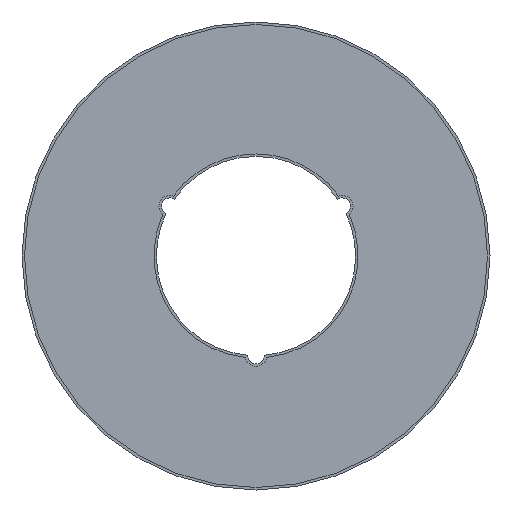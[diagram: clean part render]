
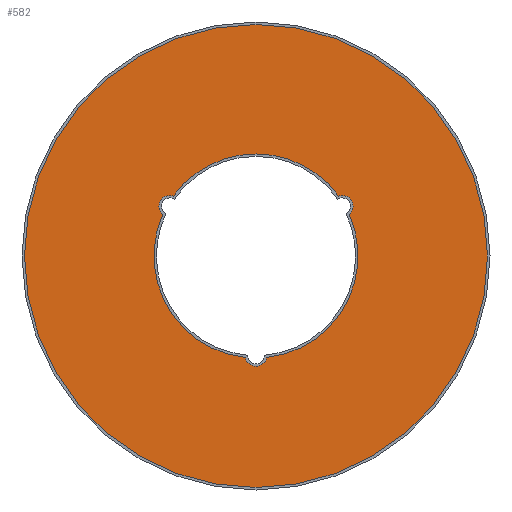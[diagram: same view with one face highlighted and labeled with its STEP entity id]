
A CAD part, front view. The second image highlights one B-rep face of the part: STEP entity #582.
In plain terms, the highlighted planar face has unit normal (0, -1, 0).
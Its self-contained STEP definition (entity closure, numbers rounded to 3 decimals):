
#7 = VERTEX_POINT ( 'NONE', #803 ) ;
#8 = CARTESIAN_POINT ( 'NONE',  ( -5.196, -0.035, 3. ) ) ;
#23 = EDGE_CURVE ( 'NONE', #491, #169, #741, .T. ) ;
#27 = AXIS2_PLACEMENT_3D ( 'NONE', #8, #116, #374 ) ;
#50 = EDGE_CURVE ( 'NONE', #901, #146, #777, .T. ) ;
#81 = AXIS2_PLACEMENT_3D ( 'NONE', #241, #620, #954 ) ;
#97 = CARTESIAN_POINT ( 'NONE',  ( 0., -0.035, 0. ) ) ;
#99 = CARTESIAN_POINT ( 'NONE',  ( 0.639, -0.035, -6.117 ) ) ;
#101 = ORIENTED_EDGE ( 'NONE', *, *, #688, .F. ) ;
#116 = DIRECTION ( 'NONE',  ( 0., -1., 0. ) ) ;
#125 = DIRECTION ( 'NONE',  ( 0., -1., 0. ) ) ;
#129 = EDGE_CURVE ( 'NONE', #396, #813, #341, .T. ) ;
#140 = CIRCLE ( 'NONE', #461, 0.65 ) ;
#146 = VERTEX_POINT ( 'NONE', #1005 ) ;
#163 = EDGE_CURVE ( 'NONE', #7, #966, #629, .T. ) ;
#166 = CARTESIAN_POINT ( 'NONE',  ( -0.639, -0.035, -6.117 ) ) ;
#169 = VERTEX_POINT ( 'NONE', #200 ) ;
#181 = CARTESIAN_POINT ( 'NONE',  ( 5.196, -0.035, 3.65 ) ) ;
#200 = CARTESIAN_POINT ( 'NONE',  ( 4.977, -0.035, 3.612 ) ) ;
#212 = DIRECTION ( 'NONE',  ( 0., 0., -1. ) ) ;
#220 = CARTESIAN_POINT ( 'NONE',  ( -5.196, -0.035, 3.65 ) ) ;
#222 = FACE_BOUND ( 'NONE', #735, .T. ) ;
#225 = AXIS2_PLACEMENT_3D ( 'NONE', #1155, #990, #536 ) ;
#228 = CIRCLE ( 'NONE', #480, 6.15 ) ;
#240 = ORIENTED_EDGE ( 'NONE', *, *, #369, .F. ) ;
#241 = CARTESIAN_POINT ( 'NONE',  ( 0., -0.035, 0. ) ) ;
#257 = DIRECTION ( 'NONE',  ( 0., -1., 0. ) ) ;
#267 = AXIS2_PLACEMENT_3D ( 'NONE', #293, #660, #1012 ) ;
#293 = CARTESIAN_POINT ( 'NONE',  ( 0., -0.035, -6. ) ) ;
#303 = DIRECTION ( 'NONE',  ( 0., 0., -1. ) ) ;
#308 = CARTESIAN_POINT ( 'NONE',  ( 0., -0.035, 0. ) ) ;
#315 = EDGE_CURVE ( 'NONE', #1028, #1139, #589, .T. ) ;
#326 = CIRCLE ( 'NONE', #1060, 0.65 ) ;
#335 = CARTESIAN_POINT ( 'NONE',  ( 5.196, -0.035, 3. ) ) ;
#341 = CIRCLE ( 'NONE', #1001, 6.15 ) ;
#367 = EDGE_LOOP ( 'NONE', ( #687, #881 ) ) ;
#369 = EDGE_CURVE ( 'NONE', #813, #996, #457, .T. ) ;
#374 = DIRECTION ( 'NONE',  ( 0., 0., -1. ) ) ;
#396 = VERTEX_POINT ( 'NONE', #643 ) ;
#397 = DIRECTION ( 'NONE',  ( 0., -1., 0. ) ) ;
#415 = ORIENTED_EDGE ( 'NONE', *, *, #315, .F. ) ;
#455 = DIRECTION ( 'NONE',  ( 0., -1., 0. ) ) ;
#457 = CIRCLE ( 'NONE', #27, 0.65 ) ;
#461 = AXIS2_PLACEMENT_3D ( 'NONE', #335, #1140, #780 ) ;
#473 = PLANE ( 'NONE',  #725 ) ;
#480 = AXIS2_PLACEMENT_3D ( 'NONE', #940, #397, #303 ) ;
#481 = DIRECTION ( 'NONE',  ( 0., 0., -1. ) ) ;
#491 = VERTEX_POINT ( 'NONE', #181 ) ;
#528 = ORIENTED_EDGE ( 'NONE', *, *, #657, .F. ) ;
#536 = DIRECTION ( 'NONE',  ( 0., 0., -1. ) ) ;
#577 = EDGE_CURVE ( 'NONE', #169, #396, #228, .T. ) ;
#582 = ADVANCED_FACE ( 'NONE', ( #754, #222 ), #473, .T. ) ;
#589 = CIRCLE ( 'NONE', #608, 6.15 ) ;
#596 = ORIENTED_EDGE ( 'NONE', *, *, #23, .F. ) ;
#598 = DIRECTION ( 'NONE',  ( 0., -1., 0. ) ) ;
#608 = AXIS2_PLACEMENT_3D ( 'NONE', #97, #455, #812 ) ;
#620 = DIRECTION ( 'NONE',  ( 0., -1., 0. ) ) ;
#624 = DIRECTION ( 'NONE',  ( 0., 0., -1. ) ) ;
#629 = CIRCLE ( 'NONE', #1099, 13.95 ) ;
#643 = CARTESIAN_POINT ( 'NONE',  ( 0., -0.035, 6.15 ) ) ;
#657 = EDGE_CURVE ( 'NONE', #1139, #901, #1038, .T. ) ;
#660 = DIRECTION ( 'NONE',  ( 0., -1., 0. ) ) ;
#687 = ORIENTED_EDGE ( 'NONE', *, *, #163, .T. ) ;
#688 = EDGE_CURVE ( 'NONE', #146, #491, #140, .T. ) ;
#690 = CARTESIAN_POINT ( 'NONE',  ( -5.196, -0.035, 3. ) ) ;
#699 = DIRECTION ( 'NONE',  ( 0., 0., -1. ) ) ;
#700 = EDGE_CURVE ( 'NONE', #966, #7, #928, .T. ) ;
#725 = AXIS2_PLACEMENT_3D ( 'NONE', #770, #749, #212 ) ;
#735 = EDGE_LOOP ( 'NONE', ( #528, #415, #1165, #240, #987, #1130, #596, #101, #931 ) ) ;
#741 = CIRCLE ( 'NONE', #225, 0.65 ) ;
#749 = DIRECTION ( 'NONE',  ( 0., -1., 0. ) ) ;
#754 = FACE_OUTER_BOUND ( 'NONE', #367, .T. ) ;
#770 = CARTESIAN_POINT ( 'NONE',  ( 0., -0.035, 0. ) ) ;
#777 = CIRCLE ( 'NONE', #1133, 6.15 ) ;
#780 = DIRECTION ( 'NONE',  ( 0., 0., -1. ) ) ;
#803 = CARTESIAN_POINT ( 'NONE',  ( 0., -0.035, 13.95 ) ) ;
#812 = DIRECTION ( 'NONE',  ( 0., 0., -1. ) ) ;
#813 = VERTEX_POINT ( 'NONE', #915 ) ;
#881 = ORIENTED_EDGE ( 'NONE', *, *, #700, .T. ) ;
#901 = VERTEX_POINT ( 'NONE', #99 ) ;
#915 = CARTESIAN_POINT ( 'NONE',  ( -4.977, -0.035, 3.612 ) ) ;
#919 = CARTESIAN_POINT ( 'NONE',  ( 0., -0.035, 0. ) ) ;
#927 = DIRECTION ( 'NONE',  ( 0., 0., -1. ) ) ;
#928 = CIRCLE ( 'NONE', #81, 13.95 ) ;
#931 = ORIENTED_EDGE ( 'NONE', *, *, #50, .F. ) ;
#933 = DIRECTION ( 'NONE',  ( 0., -1., 0. ) ) ;
#940 = CARTESIAN_POINT ( 'NONE',  ( 0., -0.035, 0. ) ) ;
#954 = DIRECTION ( 'NONE',  ( 0., 0., -1. ) ) ;
#966 = VERTEX_POINT ( 'NONE', #1106 ) ;
#987 = ORIENTED_EDGE ( 'NONE', *, *, #129, .F. ) ;
#990 = DIRECTION ( 'NONE',  ( 0., -1., 0. ) ) ;
#996 = VERTEX_POINT ( 'NONE', #220 ) ;
#1001 = AXIS2_PLACEMENT_3D ( 'NONE', #919, #125, #481 ) ;
#1005 = CARTESIAN_POINT ( 'NONE',  ( 5.617, -0.035, 2.505 ) ) ;
#1006 = CARTESIAN_POINT ( 'NONE',  ( -5.617, -0.035, 2.505 ) ) ;
#1012 = DIRECTION ( 'NONE',  ( 0., 0., -1. ) ) ;
#1028 = VERTEX_POINT ( 'NONE', #1006 ) ;
#1038 = CIRCLE ( 'NONE', #267, 0.65 ) ;
#1060 = AXIS2_PLACEMENT_3D ( 'NONE', #690, #598, #699 ) ;
#1066 = CARTESIAN_POINT ( 'NONE',  ( 0., -0.035, 0. ) ) ;
#1099 = AXIS2_PLACEMENT_3D ( 'NONE', #308, #933, #927 ) ;
#1106 = CARTESIAN_POINT ( 'NONE',  ( 0., -0.035, -13.95 ) ) ;
#1118 = EDGE_CURVE ( 'NONE', #996, #1028, #326, .T. ) ;
#1130 = ORIENTED_EDGE ( 'NONE', *, *, #577, .F. ) ;
#1133 = AXIS2_PLACEMENT_3D ( 'NONE', #1066, #257, #624 ) ;
#1139 = VERTEX_POINT ( 'NONE', #166 ) ;
#1140 = DIRECTION ( 'NONE',  ( 0., -1., 0. ) ) ;
#1155 = CARTESIAN_POINT ( 'NONE',  ( 5.196, -0.035, 3. ) ) ;
#1165 = ORIENTED_EDGE ( 'NONE', *, *, #1118, .F. ) ;
